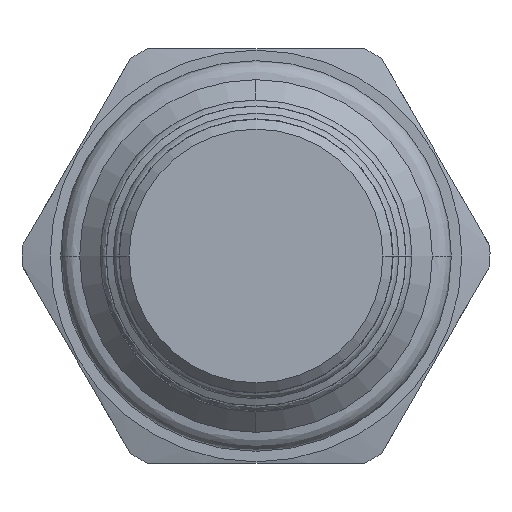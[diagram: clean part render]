
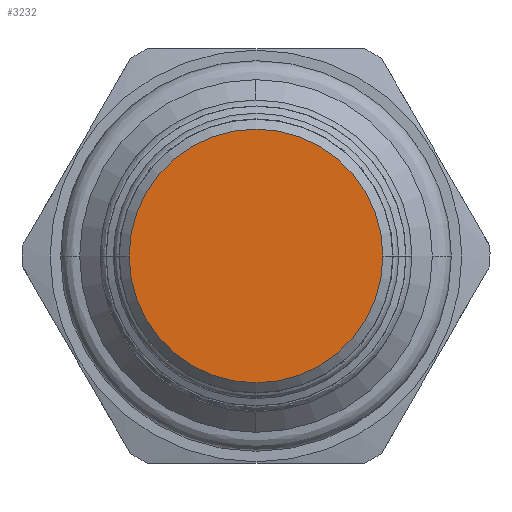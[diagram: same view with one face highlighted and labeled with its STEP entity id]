
A CAD part, front view. The second image highlights one B-rep face of the part: STEP entity #3232.
In plain terms, the highlighted planar face has unit normal (0, -1, 0).
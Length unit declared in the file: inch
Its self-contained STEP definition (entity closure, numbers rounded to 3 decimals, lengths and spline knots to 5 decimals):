
#1186=CARTESIAN_POINT('',(0.,-2.436,0.));
#1187=DIRECTION('',(0.,-1.,0.));
#1188=DIRECTION('',(-1.,0.,0.));
#1189=AXIS2_PLACEMENT_3D('',#1186,#1187,#1188);
#1196=CARTESIAN_POINT('',(0.,-2.436,0.));
#1197=DIRECTION('',(0.,-1.,0.));
#1198=DIRECTION('',(1.,0.,0.));
#1199=AXIS2_PLACEMENT_3D('',#1196,#1197,#1198);
#1343=CARTESIAN_POINT('',(-0.382,-2.436,0.));
#1344=CARTESIAN_POINT('',(0.382,-2.436,0.));
#1345=VERTEX_POINT('',#1343);
#1346=VERTEX_POINT('',#1344);
#3222=CARTESIAN_POINT('',(0.,-2.436,0.));
#3223=DIRECTION('',(0.,1.,0.));
#3224=DIRECTION('',(1.,0.,0.));
#3225=AXIS2_PLACEMENT_3D('',#3222,#3223,#3224);
#3226=PLANE('',#3225);
#3227=ORIENTED_EDGE('',*,*,#3212,.F.);
#3229=ORIENTED_EDGE('',*,*,#3228,.F.);
#3230=EDGE_LOOP('',(#3227,#3229));
#3231=FACE_OUTER_BOUND('',#3230,.F.);
#3232=ADVANCED_FACE('',(#3231),#3226,.F.);
#1190=CIRCLE('',#1189,0.382);
#1200=CIRCLE('',#1199,0.382);
#3212=EDGE_CURVE('',#1345,#1346,#1190,.T.);
#3228=EDGE_CURVE('',#1346,#1345,#1200,.T.);
